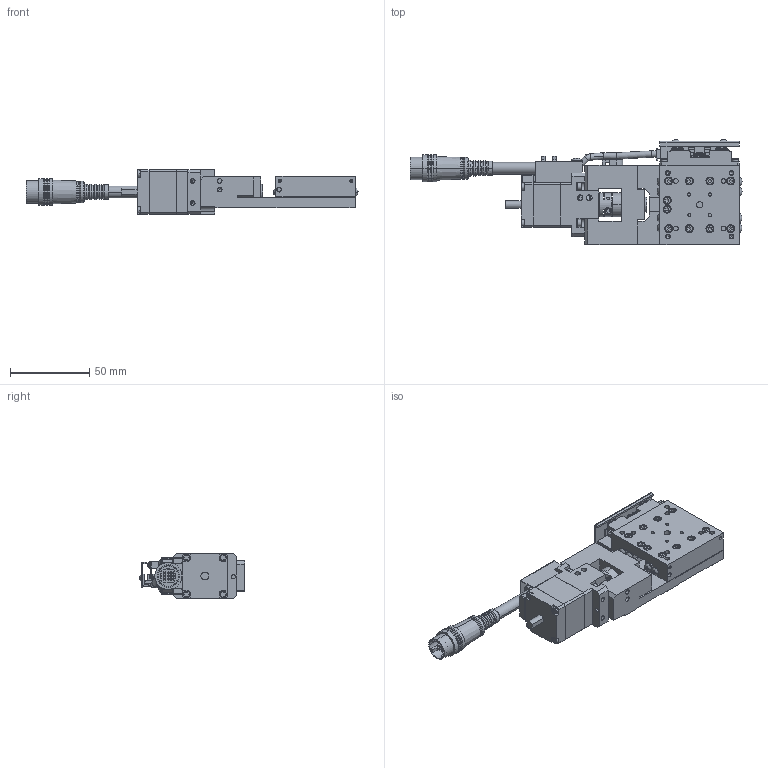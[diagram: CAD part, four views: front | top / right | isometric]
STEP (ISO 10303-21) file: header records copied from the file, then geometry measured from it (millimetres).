
FILE_DESCRIPTION (( 'STEP AP203' ), '1' );
FILE_NAME ('XA05A-R102-R.STEP', '2019-02-20T07:48:37', ( '' ), ( '' ), 'SwSTEP 2.0', 'SolidWorks 2018', '' );
FILE_SCHEMA (( 'CONFIG_CONTROL_DESIGN' ));
Length unit declared in the file: millimetre
Products named in the file (6): base; base-Part-3; table; XA05A-R102-R; base-Part-1; base-Part-2
Assembly tree (5 placements, depth 3):
  XA05A-R102-R
    base
      base-Part-1
      base-Part-2
      base-Part-3
    table
Bounding box: 209.18 x 66.18 x 28 mm (x, y, z)
Volume: 121583.7 mm3; surface area: 55019.1 mm2
Topology: 4 solids, 6 shells, 2197 faces, 5445 edges, 3331 vertices
Faces by surface type: plane 1307, cylinder 524, cone 226, torus 106, sphere 34
Entity records: 65589 total; most frequent: CARTESIAN_POINT 11823, DIRECTION 11625, ORIENTED_EDGE 10710, EDGE_CURVE 5355, AXIS2_PLACEMENT_3D 4173, VERTEX_POINT 3325, LINE 3279, VECTOR 3279
